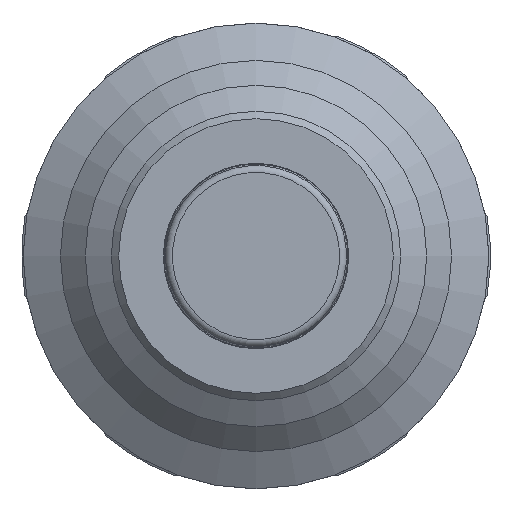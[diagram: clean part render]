
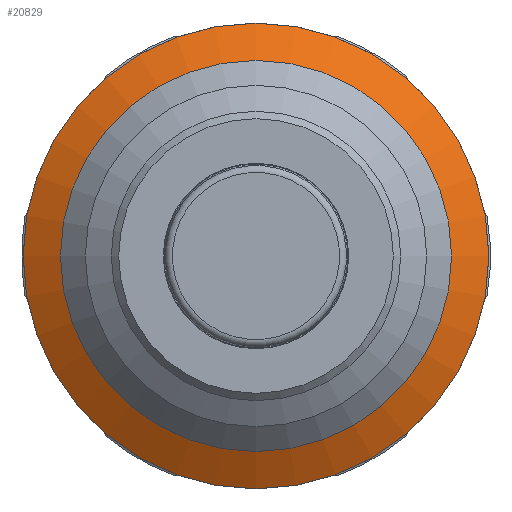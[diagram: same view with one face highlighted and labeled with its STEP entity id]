
A CAD part, front view. The second image highlights one B-rep face of the part: STEP entity #20829.
In plain terms, the highlighted conical face has half-angle 60 degrees and reference radius 14.623 mm.
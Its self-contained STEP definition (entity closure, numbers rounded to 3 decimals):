
#799=CONICAL_SURFACE('',#21744,14.623,1.047);
#2795=LINE('',#34954,#4005);
#4005=VECTOR('',#23239,14.623);
#6427=FACE_OUTER_BOUND('',#7550,.T.);
#7550=EDGE_LOOP('',(#16381,#16382,#16383,#16384,#16385));
#8347=CIRCLE('',#21739,13.35);
#8348=CIRCLE('',#21740,13.35);
#8350=CIRCLE('',#21743,15.896);
#9465=VERTEX_POINT('',#34943);
#9466=VERTEX_POINT('',#34945);
#9468=VERTEX_POINT('',#34951);
#11977=EDGE_CURVE('',#9466,#9465,#8347,.T.);
#11978=EDGE_CURVE('',#9465,#9466,#8348,.T.);
#11980=EDGE_CURVE('',#9468,#9468,#8350,.T.);
#11981=EDGE_CURVE('',#9466,#9468,#2795,.T.);
#16381=ORIENTED_EDGE('',*,*,#11977,.T.);
#16382=ORIENTED_EDGE('',*,*,#11978,.T.);
#16383=ORIENTED_EDGE('',*,*,#11981,.T.);
#16384=ORIENTED_EDGE('',*,*,#11980,.T.);
#16385=ORIENTED_EDGE('',*,*,#11981,.F.);
#20829=ADVANCED_FACE('',(#6427),#799,.T.);
#21739=AXIS2_PLACEMENT_3D('',#34946,#23227,#23228);
#21740=AXIS2_PLACEMENT_3D('',#34947,#23229,#23230);
#21743=AXIS2_PLACEMENT_3D('',#34952,#23235,#23236);
#21744=AXIS2_PLACEMENT_3D('',#34953,#23237,#23238);
#23227=DIRECTION('center_axis',(0.,1.,0.));
#23228=DIRECTION('ref_axis',(-1.,0.,0.));
#23229=DIRECTION('center_axis',(0.,1.,0.));
#23230=DIRECTION('ref_axis',(-1.,0.,0.));
#23235=DIRECTION('center_axis',(0.,-1.,0.));
#23236=DIRECTION('ref_axis',(-1.,0.,0.));
#23237=DIRECTION('center_axis',(0.,1.,0.));
#23238=DIRECTION('ref_axis',(-1.,0.,0.));
#23239=DIRECTION('',(0.866,0.5,0.));
#34943=CARTESIAN_POINT('',(-13.35,12.785,0.));
#34945=CARTESIAN_POINT('',(13.35,12.785,0.));
#34946=CARTESIAN_POINT('Origin',(0.,12.785,0.));
#34947=CARTESIAN_POINT('Origin',(0.,12.785,0.));
#34951=CARTESIAN_POINT('',(15.896,14.255,0.));
#34952=CARTESIAN_POINT('Origin',(0.,14.255,0.));
#34953=CARTESIAN_POINT('Origin',(0.,13.52,0.));
#34954=CARTESIAN_POINT('',(14.623,13.52,0.));
